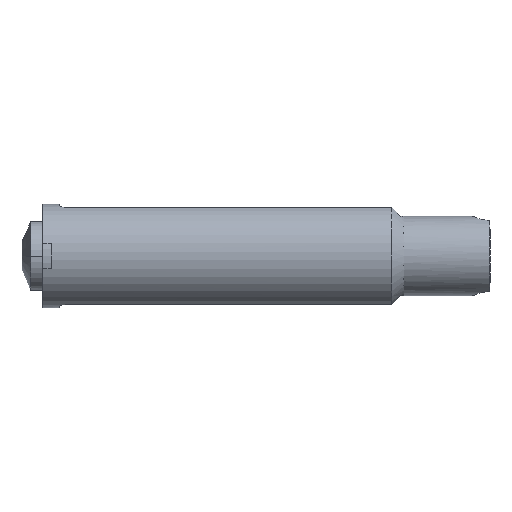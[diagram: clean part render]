
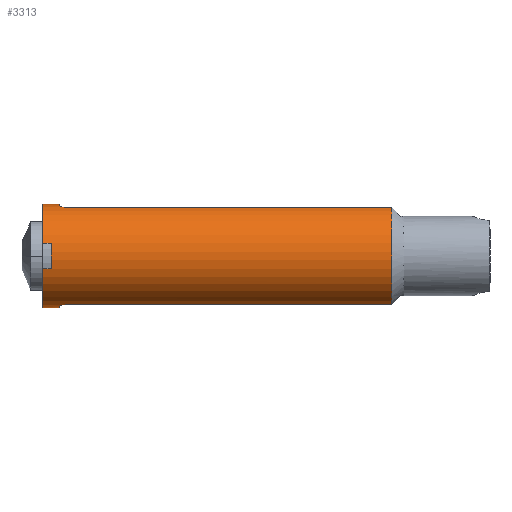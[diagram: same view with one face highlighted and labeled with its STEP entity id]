
A CAD part, left-side view. The second image highlights one B-rep face of the part: STEP entity #3313.
In plain terms, the highlighted cylindrical face has radius 3 mm (diameter 6 mm), a partial arc.
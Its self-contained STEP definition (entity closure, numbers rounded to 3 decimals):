
#30 = CARTESIAN_POINT ( 'NONE',  ( -2.905, -0.5, 0.75 ) ) ;
#32 = CARTESIAN_POINT ( 'NONE',  ( -2.905, 0., -0.75 ) ) ;
#87 = DIRECTION ( 'NONE',  ( 0., -1., 0. ) ) ;
#102 = AXIS2_PLACEMENT_3D ( 'NONE', #2679, #87, #1821 ) ;
#111 = LINE ( 'NONE', #2405, #3215 ) ;
#180 = VERTEX_POINT ( 'NONE', #32 ) ;
#203 = DIRECTION ( 'NONE',  ( 0., 0., -1. ) ) ;
#280 = ORIENTED_EDGE ( 'NONE', *, *, #1184, .F. ) ;
#330 = CIRCLE ( 'NONE', #3282, 3. ) ;
#373 = LINE ( 'NONE', #2610, #1604 ) ;
#394 = CARTESIAN_POINT ( 'NONE',  ( -1., -1.3, -2.828 ) ) ;
#442 = ORIENTED_EDGE ( 'NONE', *, *, #1843, .F. ) ;
#446 = AXIS2_PLACEMENT_3D ( 'NONE', #739, #3633, #471 ) ;
#471 = DIRECTION ( 'NONE',  ( 0., 0., -1. ) ) ;
#479 = VERTEX_POINT ( 'NONE', #3245 ) ;
#514 = CARTESIAN_POINT ( 'NONE',  ( 0., -1., -3. ) ) ;
#534 = CARTESIAN_POINT ( 'NONE',  ( -0.779, -1., 2.898 ) ) ;
#576 = B_SPLINE_CURVE_WITH_KNOTS ( 'NONE', 3,
 ( #394, #3190, #2906, #2046, #3473, #1770 ),
 .UNSPECIFIED., .F., .F.,
 ( 4, 2, 4 ),
 ( 0., 0., 0. ),
 .UNSPECIFIED. ) ;
#643 = ORIENTED_EDGE ( 'NONE', *, *, #3159, .F. ) ;
#706 = CIRCLE ( 'NONE', #1906, 3. ) ;
#722 = LINE ( 'NONE', #1868, #2541 ) ;
#728 = CIRCLE ( 'NONE', #2699, 3. ) ;
#737 = CARTESIAN_POINT ( 'NONE',  ( 0., -1., 0. ) ) ;
#739 = CARTESIAN_POINT ( 'NONE',  ( 0., 0., 0. ) ) ;
#756 = CIRCLE ( 'NONE', #446, 3. ) ;
#805 = EDGE_CURVE ( 'NONE', #2638, #1418, #820, .T. ) ;
#808 = CARTESIAN_POINT ( 'NONE',  ( -0.966, -1.141, 2.841 ) ) ;
#813 = CARTESIAN_POINT ( 'NONE',  ( -0.7, -1., -2.917 ) ) ;
#820 = B_SPLINE_CURVE_WITH_KNOTS ( 'NONE', 3,
 ( #1447, #534, #1968, #808, #2880, #3378 ),
 .UNSPECIFIED., .F., .F.,
 ( 4, 2, 4 ),
 ( 0., 0., 0. ),
 .UNSPECIFIED. ) ;
#856 = DIRECTION ( 'NONE',  ( 0., 1., 0. ) ) ;
#928 = VERTEX_POINT ( 'NONE', #30 ) ;
#981 = DIRECTION ( 'NONE',  ( 0., 1., 0. ) ) ;
#1048 = ORIENTED_EDGE ( 'NONE', *, *, #3615, .F. ) ;
#1058 = CARTESIAN_POINT ( 'NONE',  ( 0., 0., 0. ) ) ;
#1120 = CARTESIAN_POINT ( 'NONE',  ( -2.905, 0., 0.75 ) ) ;
#1126 = EDGE_CURVE ( 'NONE', #479, #2577, #756, .T. ) ;
#1138 = ORIENTED_EDGE ( 'NONE', *, *, #3077, .T. ) ;
#1152 = ORIENTED_EDGE ( 'NONE', *, *, #2939, .T. ) ;
#1183 = FACE_OUTER_BOUND ( 'NONE', #2479, .T. ) ;
#1184 = EDGE_CURVE ( 'NONE', #1418, #2050, #722, .T. ) ;
#1211 = LINE ( 'NONE', #3496, #3568 ) ;
#1290 = CARTESIAN_POINT ( 'NONE',  ( -1., -20.3, 2.828 ) ) ;
#1330 = DIRECTION ( 'NONE',  ( 0., 0., 1. ) ) ;
#1363 = DIRECTION ( 'NONE',  ( 0., -1., 0. ) ) ;
#1418 = VERTEX_POINT ( 'NONE', #2340 ) ;
#1447 = CARTESIAN_POINT ( 'NONE',  ( -0.7, -1., 2.917 ) ) ;
#1506 = EDGE_CURVE ( 'NONE', #3421, #2415, #2073, .T. ) ;
#1532 = ORIENTED_EDGE ( 'NONE', *, *, #2695, .F. ) ;
#1572 = CARTESIAN_POINT ( 'NONE',  ( -1., -20.3, -2.828 ) ) ;
#1604 = VECTOR ( 'NONE', #2369, 1000. ) ;
#1623 = CARTESIAN_POINT ( 'NONE',  ( 0., -20.3, 0. ) ) ;
#1691 = VERTEX_POINT ( 'NONE', #3620 ) ;
#1750 = ORIENTED_EDGE ( 'NONE', *, *, #1126, .T. ) ;
#1770 = CARTESIAN_POINT ( 'NONE',  ( -0.7, -1., -2.917 ) ) ;
#1799 = EDGE_CURVE ( 'NONE', #2768, #3421, #576, .T. ) ;
#1821 = DIRECTION ( 'NONE',  ( 0., 0., -1. ) ) ;
#1843 = EDGE_CURVE ( 'NONE', #479, #3301, #373, .T. ) ;
#1846 = AXIS2_PLACEMENT_3D ( 'NONE', #1865, #2426, #1330 ) ;
#1865 = CARTESIAN_POINT ( 'NONE',  ( 0., -1., 0. ) ) ;
#1868 = CARTESIAN_POINT ( 'NONE',  ( -1., -74.388, 2.828 ) ) ;
#1880 = ORIENTED_EDGE ( 'NONE', *, *, #3056, .F. ) ;
#1885 = DIRECTION ( 'NONE',  ( 0., -1., 0. ) ) ;
#1895 = ORIENTED_EDGE ( 'NONE', *, *, #1799, .F. ) ;
#1903 = CARTESIAN_POINT ( 'NONE',  ( 0., 0., -3. ) ) ;
#1906 = AXIS2_PLACEMENT_3D ( 'NONE', #1623, #2202, #203 ) ;
#1930 = ORIENTED_EDGE ( 'NONE', *, *, #3065, .F. ) ;
#1968 = CARTESIAN_POINT ( 'NONE',  ( -0.855, -1.031, 2.876 ) ) ;
#1974 = DIRECTION ( 'NONE',  ( 0., 1., 0. ) ) ;
#2046 = CARTESIAN_POINT ( 'NONE',  ( -0.855, -1.032, -2.876 ) ) ;
#2050 = VERTEX_POINT ( 'NONE', #1290 ) ;
#2073 = CIRCLE ( 'NONE', #1846, 3. ) ;
#2163 = DIRECTION ( 'NONE',  ( 0., 0., 1. ) ) ;
#2202 = DIRECTION ( 'NONE',  ( 0., -1., 0. ) ) ;
#2313 = ORIENTED_EDGE ( 'NONE', *, *, #805, .F. ) ;
#2340 = CARTESIAN_POINT ( 'NONE',  ( -1., -1.3, 2.828 ) ) ;
#2365 = EDGE_CURVE ( 'NONE', #3084, #2415, #3089, .T. ) ;
#2369 = DIRECTION ( 'NONE',  ( 0., -1., 0. ) ) ;
#2377 = CIRCLE ( 'NONE', #3093, 3. ) ;
#2405 = CARTESIAN_POINT ( 'NONE',  ( -2.905, -0.5, -0.75 ) ) ;
#2415 = VERTEX_POINT ( 'NONE', #514 ) ;
#2426 = DIRECTION ( 'NONE',  ( 0., -1., 0. ) ) ;
#2428 = DIRECTION ( 'NONE',  ( 0., -1., 0. ) ) ;
#2461 = ORIENTED_EDGE ( 'NONE', *, *, #1506, .F. ) ;
#2479 = EDGE_LOOP ( 'NONE', ( #442, #1750, #1048, #1532, #1152, #1138, #3708, #2461, #1895, #643, #1880, #280, #2313, #1930 ) ) ;
#2541 = VECTOR ( 'NONE', #1363, 1000. ) ;
#2577 = VERTEX_POINT ( 'NONE', #1120 ) ;
#2610 = CARTESIAN_POINT ( 'NONE',  ( 0., -74.388, 3. ) ) ;
#2635 = CARTESIAN_POINT ( 'NONE',  ( 0., -0.5, 0. ) ) ;
#2638 = VERTEX_POINT ( 'NONE', #2993 ) ;
#2640 = CYLINDRICAL_SURFACE ( 'NONE', #102, 3. ) ;
#2679 = CARTESIAN_POINT ( 'NONE',  ( 0., -74.388, 0. ) ) ;
#2683 = DIRECTION ( 'NONE',  ( 0., -1., 0. ) ) ;
#2695 = EDGE_CURVE ( 'NONE', #1691, #928, #728, .T. ) ;
#2699 = AXIS2_PLACEMENT_3D ( 'NONE', #2635, #2913, #3281 ) ;
#2767 = VERTEX_POINT ( 'NONE', #1572 ) ;
#2768 = VERTEX_POINT ( 'NONE', #3524 ) ;
#2880 = CARTESIAN_POINT ( 'NONE',  ( -1., -1.219, 2.828 ) ) ;
#2906 = CARTESIAN_POINT ( 'NONE',  ( -0.966, -1.141, -2.841 ) ) ;
#2913 = DIRECTION ( 'NONE',  ( 0., 1., 0. ) ) ;
#2939 = EDGE_CURVE ( 'NONE', #1691, #180, #111, .T. ) ;
#2984 = CARTESIAN_POINT ( 'NONE',  ( 0., -74.388, -3. ) ) ;
#2993 = CARTESIAN_POINT ( 'NONE',  ( -0.7, -1., 2.917 ) ) ;
#3022 = DIRECTION ( 'NONE',  ( 0., 0., -1. ) ) ;
#3056 = EDGE_CURVE ( 'NONE', #2050, #2767, #706, .T. ) ;
#3065 = EDGE_CURVE ( 'NONE', #3301, #2638, #330, .T. ) ;
#3077 = EDGE_CURVE ( 'NONE', #180, #3084, #2377, .T. ) ;
#3084 = VERTEX_POINT ( 'NONE', #1903 ) ;
#3089 = LINE ( 'NONE', #2984, #3171 ) ;
#3093 = AXIS2_PLACEMENT_3D ( 'NONE', #1058, #2428, #3022 ) ;
#3159 = EDGE_CURVE ( 'NONE', #2767, #2768, #3161, .T. ) ;
#3161 = LINE ( 'NONE', #3374, #3589 ) ;
#3171 = VECTOR ( 'NONE', #2683, 1000. ) ;
#3190 = CARTESIAN_POINT ( 'NONE',  ( -1., -1.219, -2.828 ) ) ;
#3215 = VECTOR ( 'NONE', #981, 1000. ) ;
#3245 = CARTESIAN_POINT ( 'NONE',  ( 0., 0., 3. ) ) ;
#3281 = DIRECTION ( 'NONE',  ( 0., 0., 1. ) ) ;
#3282 = AXIS2_PLACEMENT_3D ( 'NONE', #737, #1885, #2163 ) ;
#3301 = VERTEX_POINT ( 'NONE', #3464 ) ;
#3313 = ADVANCED_FACE ( 'NONE', ( #1183 ), #2640, .T. ) ;
#3374 = CARTESIAN_POINT ( 'NONE',  ( -1., -74.388, -2.828 ) ) ;
#3378 = CARTESIAN_POINT ( 'NONE',  ( -1., -1.3, 2.828 ) ) ;
#3421 = VERTEX_POINT ( 'NONE', #813 ) ;
#3464 = CARTESIAN_POINT ( 'NONE',  ( 0., -1., 3. ) ) ;
#3473 = CARTESIAN_POINT ( 'NONE',  ( -0.779, -1., -2.898 ) ) ;
#3496 = CARTESIAN_POINT ( 'NONE',  ( -2.905, -0.5, 0.75 ) ) ;
#3524 = CARTESIAN_POINT ( 'NONE',  ( -1., -1.3, -2.828 ) ) ;
#3568 = VECTOR ( 'NONE', #1974, 1000. ) ;
#3589 = VECTOR ( 'NONE', #856, 1000. ) ;
#3615 = EDGE_CURVE ( 'NONE', #928, #2577, #1211, .T. ) ;
#3620 = CARTESIAN_POINT ( 'NONE',  ( -2.905, -0.5, -0.75 ) ) ;
#3633 = DIRECTION ( 'NONE',  ( 0., -1., 0. ) ) ;
#3708 = ORIENTED_EDGE ( 'NONE', *, *, #2365, .T. ) ;
